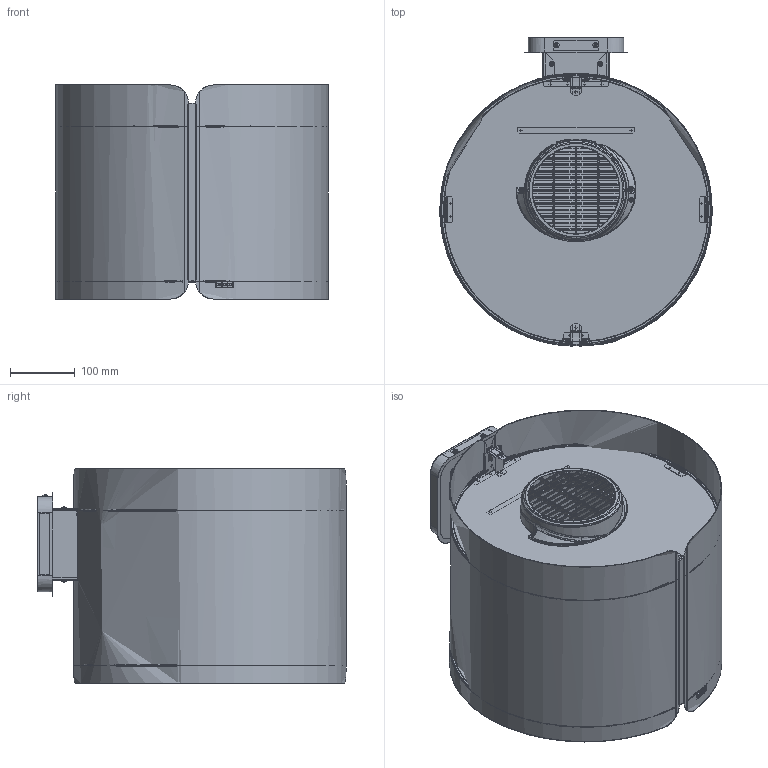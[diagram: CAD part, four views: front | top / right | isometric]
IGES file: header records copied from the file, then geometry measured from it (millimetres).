
Global section: file name: F:\_CONVERSIONE_CAD_2024_2025\03_3D kits new\07_Hoods\Solo Logo Piatto o 3D\3D001_Hoods_Smart_FSMS-WALL-F42\3D001_Hoods_Smart_FSMS-WALL-F42.igs; native system: Rhinoceros ( Jan  9 2024 ); preprocessor: Trout Lake IGES 012 Jan  9 2024; date: 240212.140823; units: millimetre
Bounding box: 420 x 475.16 x 330 mm (x, y, z)
Surface area: 2083215 mm2 (no closed solid volume)
Topology: 0 solids, 0 shells, 7430 faces, 49260 edges, 49166 vertices
Faces by surface type: bspline 7430
